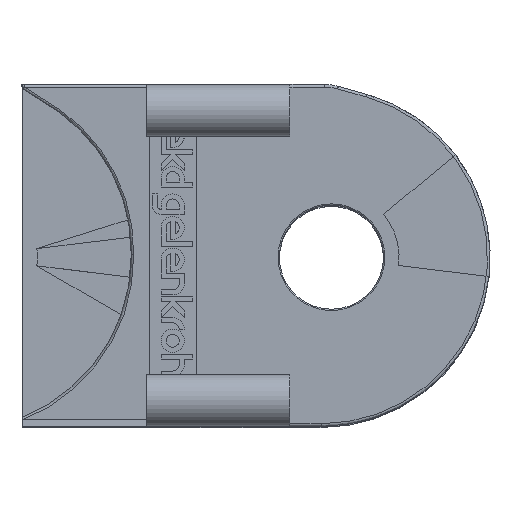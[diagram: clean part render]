
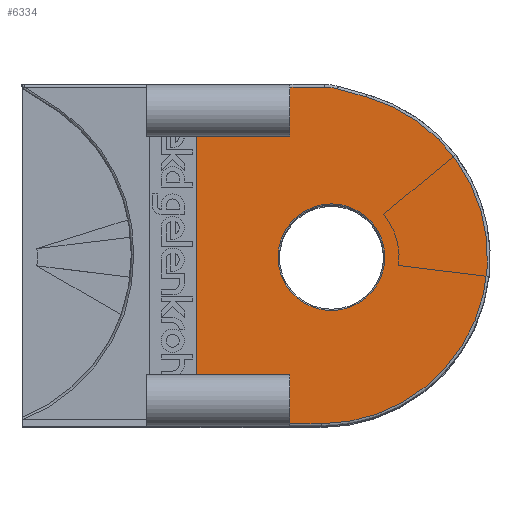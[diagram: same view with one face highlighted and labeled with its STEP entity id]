
A CAD part, top view. The second image highlights one B-rep face of the part: STEP entity #6334.
In plain terms, the highlighted free-form (B-spline) face has degree [1, 1] with [2, 2] control points.
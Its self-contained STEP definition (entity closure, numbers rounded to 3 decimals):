
#355=CARTESIAN_POINT('',(140.837,195.168,205.528));
#356=VERTEX_POINT('',#355);
#363=CARTESIAN_POINT('',(158.874,195.168,205.528));
#364=VERTEX_POINT('',#363);
#365=CARTESIAN_POINT('',(158.874,195.168,205.528));
#366=DIRECTION('',(-1.0,0.0,0.0));
#367=VECTOR('',#366,18.038);
#368=LINE('',#365,#367);
#369=EDGE_CURVE('',#364,#356,#368,.T.);
#486=CARTESIAN_POINT('',(158.874,149.468,205.528));
#487=VERTEX_POINT('',#486);
#494=CARTESIAN_POINT('',(140.837,149.468,205.528));
#495=VERTEX_POINT('',#494);
#496=CARTESIAN_POINT('',(140.837,149.468,205.528));
#497=DIRECTION('',(1.0,0.0,0.0));
#498=VECTOR('',#497,18.038);
#499=LINE('',#496,#498);
#500=EDGE_CURVE('',#495,#487,#499,.T.);
#1200=CARTESIAN_POINT('',(158.874,204.668,205.528));
#1201=VERTEX_POINT('',#1200);
#1202=CARTESIAN_POINT('',(158.874,204.668,205.528));
#1203=DIRECTION('',(0.0,-1.0,0.0));
#1204=VECTOR('',#1203,9.5);
#1205=LINE('',#1202,#1204);
#1206=EDGE_CURVE('',#1201,#364,#1205,.T.);
#1364=CARTESIAN_POINT('',(158.874,139.968,205.528));
#1365=VERTEX_POINT('',#1364);
#1373=CARTESIAN_POINT('',(158.874,149.468,205.528));
#1374=DIRECTION('',(0.0,-1.0,0.));
#1375=VECTOR('',#1374,9.5);
#1376=LINE('',#1373,#1375);
#1377=EDGE_CURVE('',#487,#1365,#1376,.T.);
#1461=CARTESIAN_POINT('',(165.456,204.668,205.528));
#1462=VERTEX_POINT('',#1461);
#1463=CARTESIAN_POINT('',(165.456,204.668,205.528));
#1464=DIRECTION('',(-1.0,0.,0.));
#1465=VECTOR('',#1464,6.582);
#1466=LINE('',#1463,#1465);
#1467=EDGE_CURVE('',#1462,#1201,#1466,.T.);
#1812=CARTESIAN_POINT('',(164.837,139.968,205.528));
#1813=VERTEX_POINT('',#1812);
#1821=CARTESIAN_POINT('',(158.874,139.968,205.528));
#1822=DIRECTION('',(1.0,0.,0.));
#1823=VECTOR('',#1822,5.962);
#1824=LINE('',#1821,#1823);
#1825=EDGE_CURVE('',#1365,#1813,#1824,.T.);
#5965=CARTESIAN_POINT('',(140.837,195.168,205.528));
#5966=DIRECTION('',(0.,-1.0,0.));
#5967=VECTOR('',#5966,45.7);
#5968=LINE('',#5965,#5967);
#5969=EDGE_CURVE('',#356,#495,#5968,.T.);
#6285=CARTESIAN_POINT('',(140.837,204.668,205.528));
#6286=CARTESIAN_POINT('',(196.837,204.668,205.528));
#6287=CARTESIAN_POINT('',(140.837,139.968,205.528));
#6288=CARTESIAN_POINT('',(196.837,139.968,205.528));
#6289=B_SPLINE_SURFACE_WITH_KNOTS('',1,1,((#6285,#6287),(#6286,#6288)),.UNSPECIFIED.,.F.,.F.,.U.,(2,2),(2,2),(0.0,56.),(0.0,64.7),.UNSPECIFIED.);
#6290=ORIENTED_EDGE('',*,*,#369,.T.);
#6291=ORIENTED_EDGE('',*,*,#5969,.T.);
#6292=ORIENTED_EDGE('',*,*,#500,.T.);
#6293=ORIENTED_EDGE('',*,*,#1377,.T.);
#6294=ORIENTED_EDGE('',*,*,#1825,.T.);
#6295=CARTESIAN_POINT('',(173.507,202.771,205.528));
#6296=VERTEX_POINT('',#6295);
#6297=CARTESIAN_POINT('',(164.837,171.968,205.528));
#6298=DIRECTION('',(0.,0.,1.0));
#6299=DIRECTION('',(0.991,-0.137,0.));
#6300=AXIS2_PLACEMENT_3D('',#6297,#6298,#6299);
#6301=CIRCLE('',#6300,32.);
#6302=EDGE_CURVE('',#1813,#6296,#6301,.T.);
#6303=ORIENTED_EDGE('',*,*,#6302,.T.);
#6304=CARTESIAN_POINT('',(168.03,204.313,205.528));
#6305=VERTEX_POINT('',#6304);
#6306=CARTESIAN_POINT('',(173.507,202.771,205.528));
#6307=DIRECTION('',(-0.963,0.271,0.0));
#6308=VECTOR('',#6307,5.69);
#6309=LINE('',#6306,#6308);
#6310=EDGE_CURVE('',#6296,#6305,#6309,.T.);
#6311=ORIENTED_EDGE('',*,*,#6310,.T.);
#6312=CARTESIAN_POINT('',(165.456,195.168,205.528));
#6313=DIRECTION('',(0.,0.,1.));
#6314=DIRECTION('',(0.137,0.991,0.));
#6315=AXIS2_PLACEMENT_3D('',#6312,#6313,#6314);
#6316=CIRCLE('',#6315,9.5);
#6317=EDGE_CURVE('',#6305,#1462,#6316,.T.);
#6318=ORIENTED_EDGE('',*,*,#6317,.T.);
#6319=ORIENTED_EDGE('',*,*,#1467,.T.);
#6320=ORIENTED_EDGE('',*,*,#1206,.T.);
#6321=EDGE_LOOP('',(#6290,#6291,#6292,#6293,#6294,#6303,#6311,#6318,#6319,#6320));
#6322=FACE_OUTER_BOUND('',#6321,.T.);
#6323=CARTESIAN_POINT('',(177.087,171.968,205.528));
#6324=VERTEX_POINT('',#6323);
#6325=CARTESIAN_POINT('',(166.837,171.968,205.528));
#6326=DIRECTION('',(0.0,0.0,-1.0));
#6327=DIRECTION('',(-1.0,0.0,0.0));
#6328=AXIS2_PLACEMENT_3D('',#6325,#6326,#6327);
#6329=CIRCLE('',#6328,10.25);
#6330=EDGE_CURVE('',#6324,#6324,#6329,.T.);
#6331=ORIENTED_EDGE('',*,*,#6330,.T.);
#6332=EDGE_LOOP('',(#6331));
#6333=FACE_BOUND('',#6332,.T.);
#6334=ADVANCED_FACE('',(#6322,#6333),#6289,.F.);
